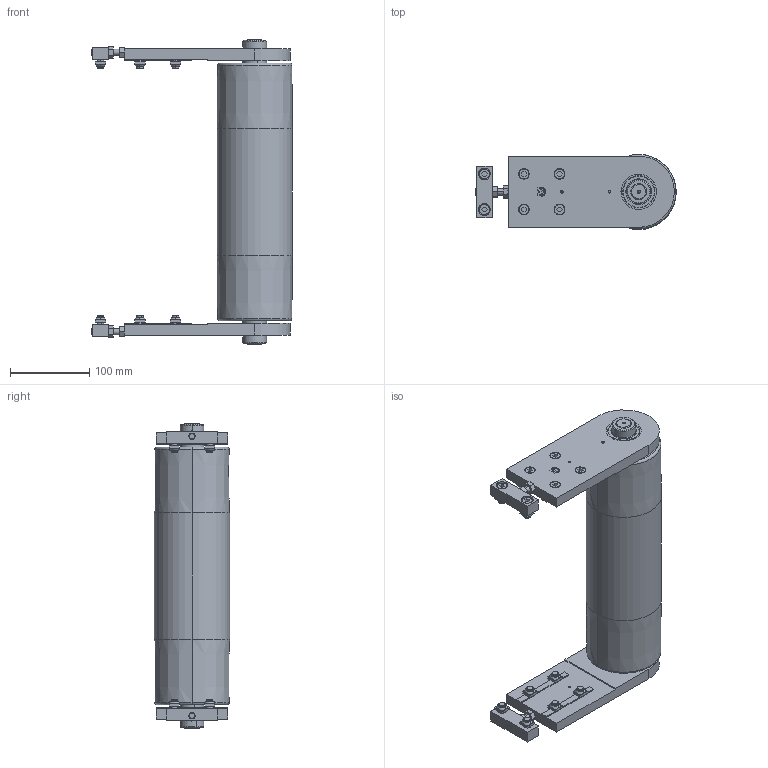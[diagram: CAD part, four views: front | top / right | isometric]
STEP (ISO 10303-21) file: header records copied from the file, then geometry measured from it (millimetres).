
FILE_DESCRIPTION (( 'STEP AP203' ), '1' );
FILE_NAME ('084.095.KIC.300.STEP', '2019-07-30T07:44:59', ( '' ), ( '' ), 'SwSTEP 2.0', 'SolidWorks 2018', '' );
FILE_SCHEMA (( 'CONFIG_CONTROL_DESIGN' ));
Length unit declared in the file: millimetre
Products named in the file (10): 084.816.159_084.816.107<A macchina>; 084.301.000 VITI ALUSIC_084.301.003; 084.302.000 DADI ALUSIC 13x13_084.302.004; 084.808.006_084.808.002; 084.802.019_084.802.019; Circlip DIN 471 - 30 x 1.5_Circlip DIN 471 - 30 x 1.5; 084.095.KIC.300; 084.810.003; 084.803.003; 084.812.003
Assembly tree (37 placements, depth 2):
  084.095.KIC.300
    084.301.000 VITI ALUSIC_084.301.003  x12
    084.302.000 DADI ALUSIC 13x13_084.302.004  x12
    084.816.159_084.816.107<A macchina>
    084.812.003  x2
    084.808.006_084.808.002  x2
    084.810.003  x2
    084.802.019_084.802.019  x2
    084.803.003  x2
    Circlip DIN 471 - 30 x 1.5_Circlip DIN 471 - 30 x 1.5  x2
Bounding box: 253.5 x 95 x 385 mm (x, y, z)
Volume: 1320213.4 mm3; surface area: 534615.8 mm2
Topology: 43 solids, 45 shells, 994 faces, 2448 edges, 1592 vertices
Faces by surface type: plane 467, cylinder 311, torus 92, cone 68, bspline 48, sphere 8
Entity records: 13686 total; most frequent: CARTESIAN_POINT 2516, DIRECTION 2066, ORIENTED_EDGE 1880, EDGE_CURVE 940, AXIS2_PLACEMENT_3D 809, VERTEX_POINT 615, VECTOR 448, LINE 448
